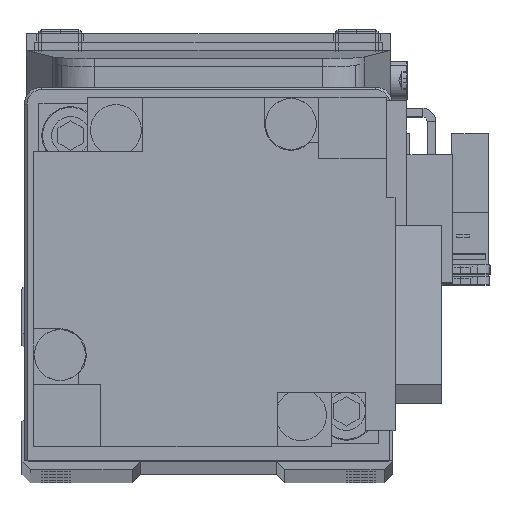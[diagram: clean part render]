
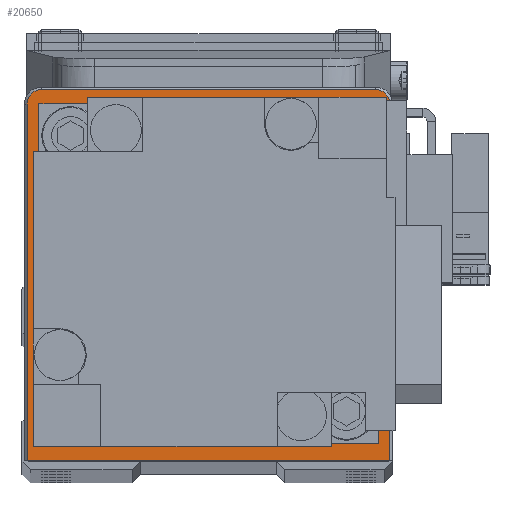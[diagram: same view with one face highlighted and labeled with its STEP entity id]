
A CAD part, top view. The second image highlights one B-rep face of the part: STEP entity #20650.
In plain terms, the highlighted planar face has unit normal (0, 0, 1).
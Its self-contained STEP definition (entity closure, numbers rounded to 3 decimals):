
#133 = ORIENTED_EDGE ( 'NONE', *, *, #20202, .F. ) ;
#266 = DIRECTION ( 'NONE',  ( 1., 0., 0. ) ) ;
#381 = EDGE_CURVE ( 'NONE', #18946, #32600, #7788, .T. ) ;
#1001 = DIRECTION ( 'NONE',  ( 0., 1., 0. ) ) ;
#1576 = CARTESIAN_POINT ( 'NONE',  ( -19.7, 21.7, 26.5 ) ) ;
#2007 = EDGE_LOOP ( 'NONE', ( #22596, #14729, #28484, #13432, #16323, #16898 ) ) ;
#2538 = VECTOR ( 'NONE', #4039, 1000. ) ;
#3035 = DIRECTION ( 'NONE',  ( 1., 0., 0. ) ) ;
#3514 = DIRECTION ( 'NONE',  ( 0., 0., 1. ) ) ;
#3552 = DIRECTION ( 'NONE',  ( 0., 0., 1. ) ) ;
#4039 = DIRECTION ( 'NONE',  ( 0., -1., 0. ) ) ;
#5521 = DIRECTION ( 'NONE',  ( 1., 0., 0. ) ) ;
#6147 = FACE_BOUND ( 'NONE', #13707, .T. ) ;
#6271 = LINE ( 'NONE', #25132, #32773 ) ;
#7788 = LINE ( 'NONE', #18549, #12928 ) ;
#7870 = CIRCLE ( 'NONE', #27565, 10. ) ;
#8157 = VERTEX_POINT ( 'NONE', #30446 ) ;
#8626 = AXIS2_PLACEMENT_3D ( 'NONE', #27647, #3514, #14263 ) ;
#9792 = CIRCLE ( 'NONE', #29468, 1.7 ) ;
#10286 = CIRCLE ( 'NONE', #29970, 10. ) ;
#10893 = EDGE_CURVE ( 'NONE', #8157, #18598, #9792, .T. ) ;
#12067 = EDGE_CURVE ( 'NONE', #28558, #18946, #17440, .T. ) ;
#12314 = DIRECTION ( 'NONE',  ( -1., 0., 0. ) ) ;
#12928 = VECTOR ( 'NONE', #29280, 1000. ) ;
#12952 = CIRCLE ( 'NONE', #32646, 1.7 ) ;
#12969 = CARTESIAN_POINT ( 'NONE',  ( -21.4, -22., 26.5 ) ) ;
#13268 = VERTEX_POINT ( 'NONE', #27654 ) ;
#13432 = ORIENTED_EDGE ( 'NONE', *, *, #20801, .T. ) ;
#13641 = CARTESIAN_POINT ( 'NONE',  ( 0., 0., 26.5 ) ) ;
#13707 = EDGE_LOOP ( 'NONE', ( #133, #34436 ) ) ;
#14263 = DIRECTION ( 'NONE',  ( 1., 0., 0. ) ) ;
#14299 = DIRECTION ( 'NONE',  ( 1., 0., 0. ) ) ;
#14729 = ORIENTED_EDGE ( 'NONE', *, *, #19857, .T. ) ;
#16165 = CARTESIAN_POINT ( 'NONE',  ( 21.4, -22., 26.5 ) ) ;
#16323 = ORIENTED_EDGE ( 'NONE', *, *, #17727, .T. ) ;
#16427 = CARTESIAN_POINT ( 'NONE',  ( -19.7, 20., 26.5 ) ) ;
#16898 = ORIENTED_EDGE ( 'NONE', *, *, #12067, .T. ) ;
#16910 = PLANE ( 'NONE',  #8626 ) ;
#17440 = LINE ( 'NONE', #28174, #2538 ) ;
#17727 = EDGE_CURVE ( 'NONE', #13268, #28558, #12952, .T. ) ;
#18549 = CARTESIAN_POINT ( 'NONE',  ( -21.7, -22., 26.5 ) ) ;
#18598 = VERTEX_POINT ( 'NONE', #29717 ) ;
#18934 = CARTESIAN_POINT ( 'NONE',  ( 0., 0., 26.5 ) ) ;
#18946 = VERTEX_POINT ( 'NONE', #12969 ) ;
#19857 = EDGE_CURVE ( 'NONE', #32600, #8157, #6271, .T. ) ;
#20202 = EDGE_CURVE ( 'NONE', #34426, #20319, #10286, .T. ) ;
#20319 = VERTEX_POINT ( 'NONE', #28216 ) ;
#20650 = ADVANCED_FACE ( 'NONE', ( #30288, #6147 ), #16910, .T. ) ;
#20801 = EDGE_CURVE ( 'NONE', #18598, #13268, #25717, .T. ) ;
#22233 = CARTESIAN_POINT ( 'NONE',  ( -21.4, 20., 26.5 ) ) ;
#22596 = ORIENTED_EDGE ( 'NONE', *, *, #381, .T. ) ;
#23279 = VECTOR ( 'NONE', #12314, 1000. ) ;
#24401 = DIRECTION ( 'NONE',  ( 0., 0., 1. ) ) ;
#25132 = CARTESIAN_POINT ( 'NONE',  ( 21.4, 20., 26.5 ) ) ;
#25717 = LINE ( 'NONE', #1576, #23279 ) ;
#27175 = DIRECTION ( 'NONE',  ( 0., 0., 1. ) ) ;
#27565 = AXIS2_PLACEMENT_3D ( 'NONE', #18934, #29659, #5521 ) ;
#27647 = CARTESIAN_POINT ( 'NONE',  ( 0., 0., 26.5 ) ) ;
#27654 = CARTESIAN_POINT ( 'NONE',  ( -19.7, 21.7, 26.5 ) ) ;
#27679 = CARTESIAN_POINT ( 'NONE',  ( 19.7, 20., 26.5 ) ) ;
#27942 = EDGE_CURVE ( 'NONE', #20319, #34426, #7870, .T. ) ;
#28174 = CARTESIAN_POINT ( 'NONE',  ( -21.4, -22., 26.5 ) ) ;
#28216 = CARTESIAN_POINT ( 'NONE',  ( 10., 0., 26.5 ) ) ;
#28484 = ORIENTED_EDGE ( 'NONE', *, *, #10893, .T. ) ;
#28558 = VERTEX_POINT ( 'NONE', #22233 ) ;
#29280 = DIRECTION ( 'NONE',  ( 1., 0., 0. ) ) ;
#29468 = AXIS2_PLACEMENT_3D ( 'NONE', #27679, #3552, #14299 ) ;
#29659 = DIRECTION ( 'NONE',  ( 0., 0., 1. ) ) ;
#29717 = CARTESIAN_POINT ( 'NONE',  ( 19.7, 21.7, 26.5 ) ) ;
#29970 = AXIS2_PLACEMENT_3D ( 'NONE', #13641, #24401, #266 ) ;
#30044 = CARTESIAN_POINT ( 'NONE',  ( -10., 0., 26.5 ) ) ;
#30288 = FACE_OUTER_BOUND ( 'NONE', #2007, .T. ) ;
#30446 = CARTESIAN_POINT ( 'NONE',  ( 21.4, 20., 26.5 ) ) ;
#32600 = VERTEX_POINT ( 'NONE', #16165 ) ;
#32646 = AXIS2_PLACEMENT_3D ( 'NONE', #16427, #27175, #3035 ) ;
#32773 = VECTOR ( 'NONE', #1001, 1000. ) ;
#34426 = VERTEX_POINT ( 'NONE', #30044 ) ;
#34436 = ORIENTED_EDGE ( 'NONE', *, *, #27942, .F. ) ;
